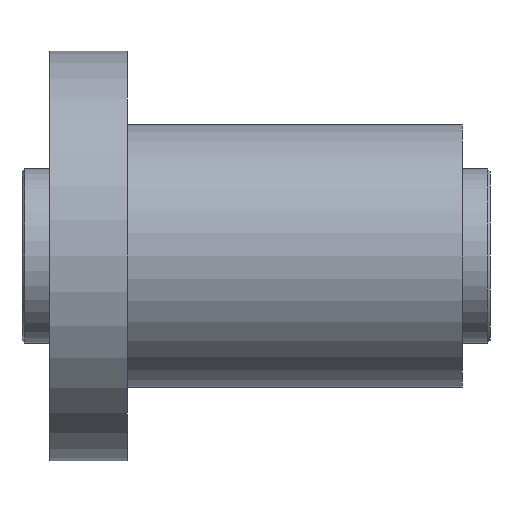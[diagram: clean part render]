
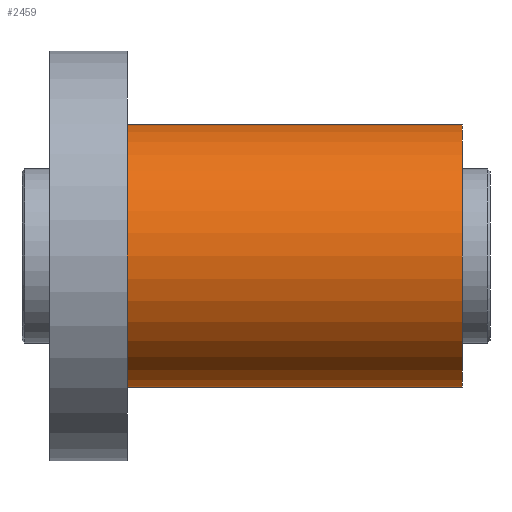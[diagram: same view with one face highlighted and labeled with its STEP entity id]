
A CAD part, front view. The second image highlights one B-rep face of the part: STEP entity #2459.
In plain terms, the highlighted cylindrical face has radius 47.5 mm (diameter 95 mm), a partial arc.
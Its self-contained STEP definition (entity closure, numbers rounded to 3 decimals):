
#2 = EDGE_CURVE ( 'NONE', #1160, #855, #556, .T. ) ;
#8 = CARTESIAN_POINT ( 'NONE',  ( 28., 0., 0. ) ) ;
#233 = EDGE_CURVE ( 'NONE', #2632, #2059, #1333, .T. ) ;
#323 = ORIENTED_EDGE ( 'NONE', *, *, #1387, .F. ) ;
#401 = AXIS2_PLACEMENT_3D ( 'NONE', #3009, #3272, #1229 ) ;
#556 = LINE ( 'NONE', #3123, #1857 ) ;
#855 = VERTEX_POINT ( 'NONE', #1583 ) ;
#1160 = VERTEX_POINT ( 'NONE', #3558 ) ;
#1229 = DIRECTION ( 'NONE',  ( 0., 0., 1. ) ) ;
#1230 = FACE_OUTER_BOUND ( 'NONE', #3185, .T. ) ;
#1246 = CARTESIAN_POINT ( 'NONE',  ( 98., 0., -47.5 ) ) ;
#1267 = AXIS2_PLACEMENT_3D ( 'NONE', #3764, #1975, #2850 ) ;
#1333 = LINE ( 'NONE', #1246, #2819 ) ;
#1387 = EDGE_CURVE ( 'NONE', #1160, #2632, #1605, .T. ) ;
#1554 = ORIENTED_EDGE ( 'NONE', *, *, #2, .T. ) ;
#1583 = CARTESIAN_POINT ( 'NONE',  ( 28., 0., 47.5 ) ) ;
#1605 = CIRCLE ( 'NONE', #1267, 47.5 ) ;
#1857 = VECTOR ( 'NONE', #2550, 1000. ) ;
#1890 = CARTESIAN_POINT ( 'NONE',  ( 149., 0., -47.5 ) ) ;
#1895 = CARTESIAN_POINT ( 'NONE',  ( 28., 0., -47.5 ) ) ;
#1975 = DIRECTION ( 'NONE',  ( 1., 0., 0. ) ) ;
#2012 = ORIENTED_EDGE ( 'NONE', *, *, #233, .F. ) ;
#2059 = VERTEX_POINT ( 'NONE', #1895 ) ;
#2394 = DIRECTION ( 'NONE',  ( -1., 0., 0. ) ) ;
#2459 = ADVANCED_FACE ( 'NONE', ( #1230 ), #2799, .T. ) ;
#2475 = DIRECTION ( 'NONE',  ( -1., 0., 0. ) ) ;
#2480 = AXIS2_PLACEMENT_3D ( 'NONE', #8, #2394, #3249 ) ;
#2550 = DIRECTION ( 'NONE',  ( -1., 0., 0. ) ) ;
#2632 = VERTEX_POINT ( 'NONE', #1890 ) ;
#2799 = CYLINDRICAL_SURFACE ( 'NONE', #401, 47.5 ) ;
#2819 = VECTOR ( 'NONE', #2475, 1000. ) ;
#2850 = DIRECTION ( 'NONE',  ( 0., 0., -1. ) ) ;
#3007 = ORIENTED_EDGE ( 'NONE', *, *, #3148, .F. ) ;
#3009 = CARTESIAN_POINT ( 'NONE',  ( 98., 0., 0. ) ) ;
#3102 = CIRCLE ( 'NONE', #2480, 47.5 ) ;
#3123 = CARTESIAN_POINT ( 'NONE',  ( 98., 0., 47.5 ) ) ;
#3148 = EDGE_CURVE ( 'NONE', #2059, #855, #3102, .T. ) ;
#3185 = EDGE_LOOP ( 'NONE', ( #2012, #323, #1554, #3007 ) ) ;
#3249 = DIRECTION ( 'NONE',  ( 0., 0., 1. ) ) ;
#3272 = DIRECTION ( 'NONE',  ( -1., 0., 0. ) ) ;
#3558 = CARTESIAN_POINT ( 'NONE',  ( 149., 0., 47.5 ) ) ;
#3764 = CARTESIAN_POINT ( 'NONE',  ( 149., 0., 0. ) ) ;
